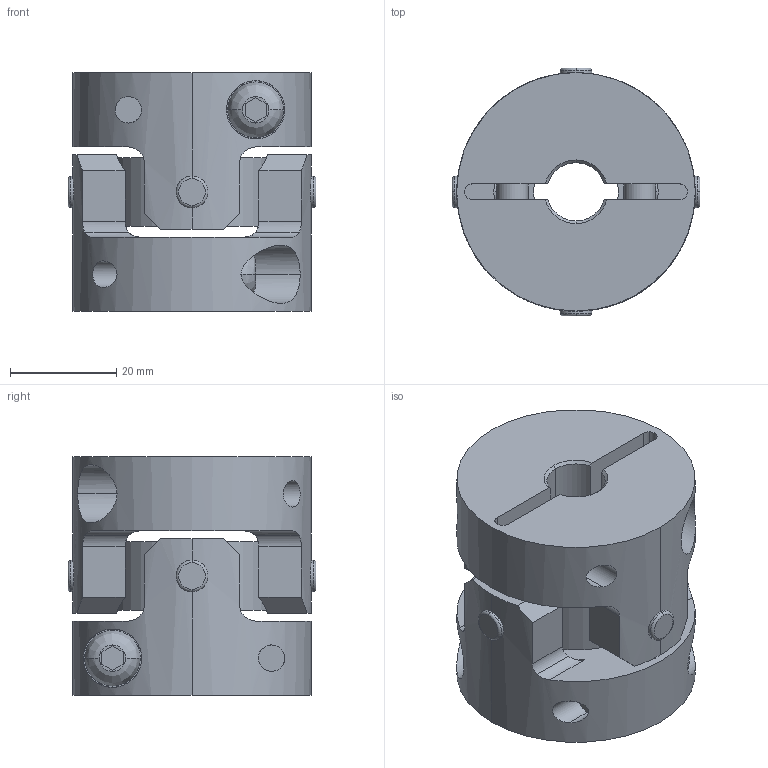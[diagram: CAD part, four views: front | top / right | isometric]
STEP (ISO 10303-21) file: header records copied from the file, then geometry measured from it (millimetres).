
FILE_DESCRIPTION((''),'2;1');
FILE_NAME('UA-45C-11×17.stp','2013-05-22T09:52:42',(''),(''),'AutoCAD STEP 2000i','AutoCAD 2000i',', , ');
FILE_SCHEMA(('CONFIG_CONTROL_DESIGN'));
Length unit declared in the file: millimetre
Products named in the file (7): UA-45C-8×17; 忣兜1; UA-4502-D17; BTN-M6; UA-4502-D08-1; UA-4502-D08; UA45-SEN
Assembly tree (8 placements, depth 3):
  UA-45C-8×17
    忣兜1
    UA-4502-D17
      BTN-M6
    UA-4502-D08-1
      BTN-M6
    UA-4502-D08
      BTN-M6
    UA45-SEN
Bounding box: 46.73 x 46.73 x 45 mm (x, y, z)
Volume: 49645.5 mm3; surface area: 19853.3 mm2
Topology: 1 solids, 1 shells, 206 faces, 554 edges, 364 vertices
Faces by surface type: cylinder 96, plane 78, cone 16, bspline 8, torus 8
Entity records: 8537 total; most frequent: CARTESIAN_POINT 3201, ORIENTED_EDGE 1108, DIRECTION 1068, EDGE_CURVE 554, AXIS2_PLACEMENT_3D 411, VERTEX_POINT 364, VECTOR 246, LINE 246
